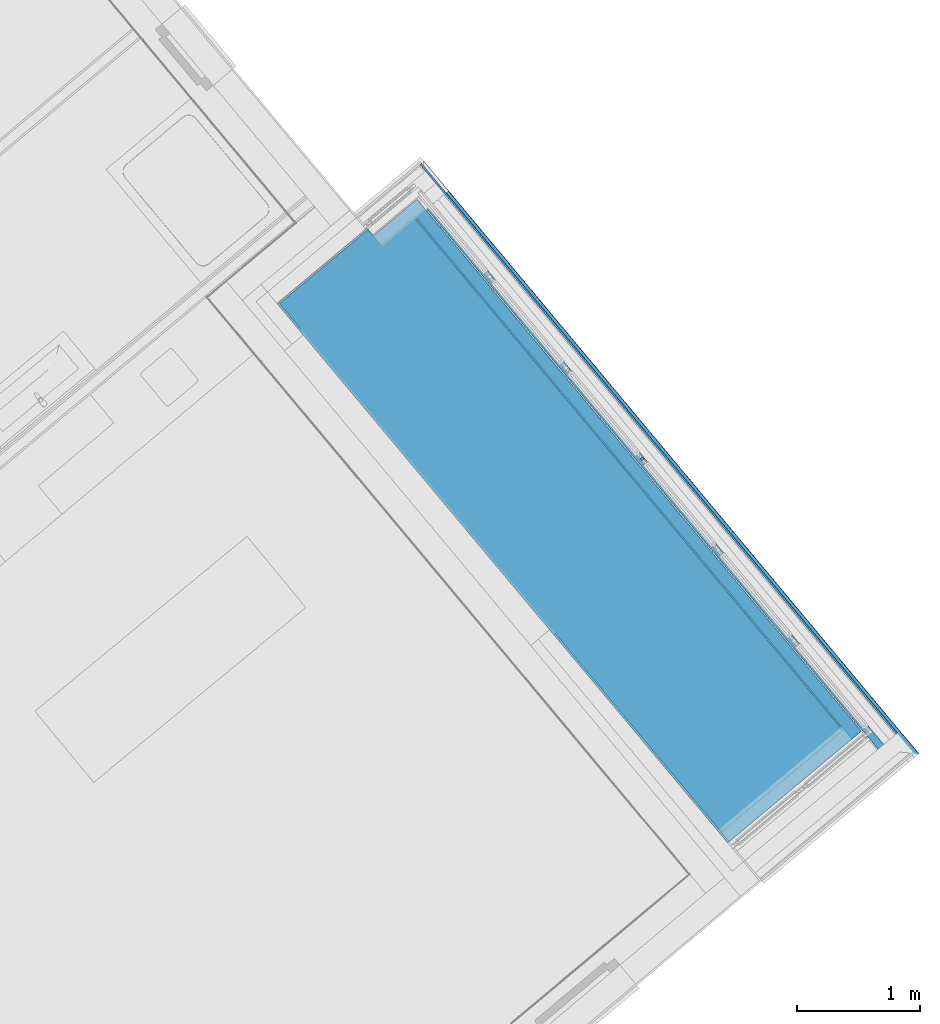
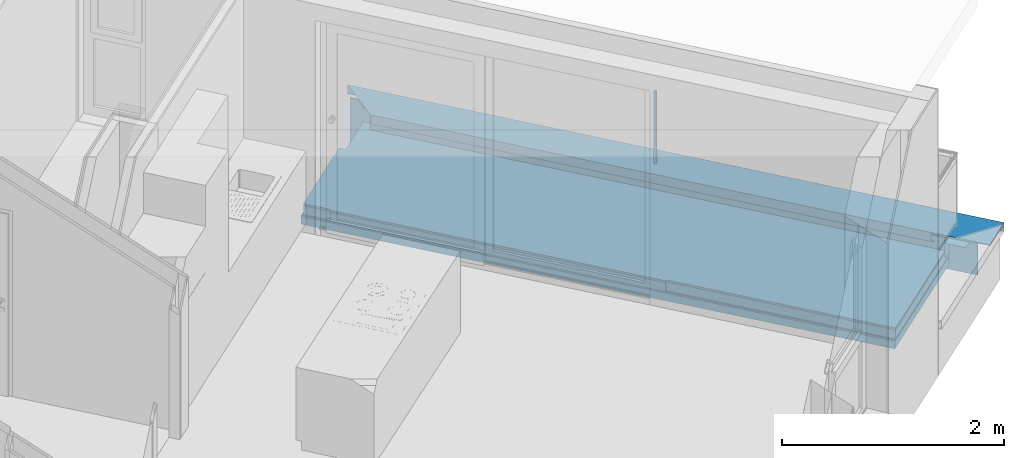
# One storey, part 35 of 50: 10 building element parts, 3 elements without a shape of their own.
"""IFC4 building model written with IfcOpenShell, lengths in metres."""

from ifc_helpers import new_model, entity, si_unit, converted_unit, derived_unit, direction, frame, origin_with_axes, place, context, subcontext, project, spatial, polygons, material, type_object, element, aggregate, save


model = new_model("IFC4")

# Units and contexts
model_context = context("Model", 3, precision=1e-05, world=origin_with_axes(), true_north=direction((0.0, 1.0)))
body_context = subcontext(model_context, "Body", "Model", "MODEL_VIEW")
ifc_project = project(units=[si_unit("LENGTHUNIT", "METRE"), si_unit("AREAUNIT", "SQUARE_METRE"), si_unit("VOLUMEUNIT", "CUBIC_METRE"), converted_unit("PLANEANGLEUNIT", "DEGREE", entity("IfcPlaneAngleMeasure", 0.0174532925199), si_unit("PLANEANGLEUNIT", "RADIAN"), dimensions=[0, 0, 0, 0, 0, 0, 0]), converted_unit("TIMEUNIT", "Year", entity("IfcTimeMeasure", 31556926.0), si_unit("TIMEUNIT", "SECOND"), dimensions=[0, 0, 1, 0, 0, 0, 0]), si_unit("MASSUNIT", "GRAM", prefix="KILO"), si_unit("THERMODYNAMICTEMPERATUREUNIT", "DEGREE_CELSIUS"), si_unit("LUMINOUSINTENSITYUNIT", "LUMEN"), si_unit("ENERGYUNIT", "JOULE", prefix="MEGA"), derived_unit("THERMALCONDUCTANCEUNIT", [(si_unit("POWERUNIT", "WATT"), 1), (si_unit("LENGTHUNIT", "METRE"), -1), (si_unit("THERMODYNAMICTEMPERATUREUNIT", "KELVIN"), -1)]), derived_unit("SPECIFICHEATCAPACITYUNIT", [(si_unit("ENERGYUNIT", "JOULE"), 1), (si_unit("MASSUNIT", "GRAM", prefix="KILO"), -1), (si_unit("THERMODYNAMICTEMPERATUREUNIT", "KELVIN"), -1)]), derived_unit("MASSDENSITYUNIT", [(si_unit("MASSUNIT", "GRAM", prefix="KILO"), 1), (si_unit("VOLUMEUNIT", "CUBIC_METRE"), -1)])], contexts=[model_context])

# Site, building, storey
site_placement = place(None, frame((-0.00153261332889, -0.00661245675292, 0.0), z_axis=(0.0, 0.0, 1.0), x_axis=(1.0, 0.0, 0.0)))
site = spatial("IfcSite", under=ifc_project, at=site_placement, Name="Site", CompositionType="ELEMENT")
building_placement = place(site_placement, origin_with_axes())
building = spatial("IfcBuilding", under=site, at=building_placement, Name="Building", CompositionType="ELEMENT")
storey_placement = place(building_placement, frame((0.0, 0.0, 2.74), z_axis=(0.0, 0.0, 1.0), x_axis=(1.0, 0.0, 0.0)))
storey = spatial("IfcBuildingStorey", under=building, at=storey_placement, Name="OG1", CompositionType="ELEMENT", Elevation=2.74)

# Wall, building element parts
wall_type = type_object("IfcWallType", Name="Bauteil - Attika Balkon 356 x 610", PredefinedType="NOTDEFINED")
wall_placement = place(storey_placement, frame((10.5963720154, 25.814959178, -0.2), z_axis=(0.0, 0.0, 1.0), x_axis=(0.641206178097, -0.767368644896, 0.0)))
wall = element("IfcWall", 1, at=wall_placement, inside=storey, type_object=wall_type, Name="Wand-003", PredefinedType="NOTDEFINED")
ifc_material_1 = material(Name="Zementputz")
building_element_part_1_placement = place(wall_placement, origin_with_axes())
building_element_part_1 = element("IfcBuildingElementPart", 2, at=building_element_part_1_placement, material=ifc_material_1, Name="Zementputz", PredefinedType="NOTDEFINED", context=body_context, shape_type="Tessellation", body=[
    polygons([(5.82966796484, 0.199999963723, 0.500000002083), (5.82966789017, 0.214999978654, 0.500000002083), (-0.200001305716, 0.214999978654, 0.500000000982), (-0.200001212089, 0.199999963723, 0.500000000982), (5.82966789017, 0.214999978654, 0.498915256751), (5.82966796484, 0.199999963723, 0.498915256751), (5.82966789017, 0.214999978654, 0.498822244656), (5.82966789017, 0.214999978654, 0.496604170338), (5.82966789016, 0.214999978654, 0.491006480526), (5.82966789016, 0.214999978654, 0.488695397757), (5.82966789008, 0.214999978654, 0.335), (5.82966789, 0.214999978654, 0.200000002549), (5.82966789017, 0.214999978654, 0.0), (-0.200001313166, 0.214999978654, 0.0), (-0.200001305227, 0.214999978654, 0.2), (-0.200001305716, 0.214999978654, 0.334999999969), (-0.200001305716, 0.214999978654, 0.496604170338), (-0.200001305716, 0.214999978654, 0.498915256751), (-0.200001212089, 0.199999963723, 0.498915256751), (-0.200001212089, 0.199999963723, 0.496604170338), (-0.200001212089, 0.199999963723, 0.334999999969), (-0.2000012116, 0.199999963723, 0.2), (5.82966796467, 0.199999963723, 0.200000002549), (5.82966796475, 0.199999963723, 0.335), (5.82966796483, 0.199999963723, 0.488695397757), (5.82966796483, 0.199999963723, 0.491006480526), (5.82966796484, 0.199999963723, 0.496604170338), (5.82966796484, 0.199999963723, 0.498822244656), (5.82966796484, 0.199999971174, 0.0), (-0.200001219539, 0.199999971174, 0.0)], [[[1, 2, 3, 4]], [[5, 2, 1, 6]], [[2, 5, 7, 8, 9, 10, 11, 12, 13, 14, 15, 16, 17, 18, 3]], [[4, 3, 18, 19]], [[6, 1, 4, 19, 20, 21, 22, 23, 24, 25, 26, 27, 28]], [[5, 6, 28, 7]], [[7, 28, 27, 8]], [[8, 27, 26, 9]], [[9, 26, 25, 10]], [[10, 25, 24, 11]], [[11, 24, 23, 12]], [[12, 23, 29, 13]], [[13, 29, 30, 14]], [[22, 15, 14, 30]], [[21, 16, 15, 22]], [[20, 17, 16, 21]], [[19, 18, 17, 20]], [[29, 23, 22, 30]]], closed=True),
])
ifc_material_2 = material(Name="Vollholz")
building_element_part_2_placement = place(wall_placement, origin_with_axes())
building_element_part_2 = element("IfcBuildingElementPart", 3, at=building_element_part_2_placement, material=ifc_material_2, Name="Vollholz", PredefinedType="NOTDEFINED", context=body_context, shape_type="Tessellation", body=[
    polygons([(6.01968753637, 0.0100326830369, 0.57982217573), (6.0196759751, 0.0701429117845, 0.581921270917), (-0.0701433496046, 0.0701429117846, 0.581921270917), (-0.0100327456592, 0.010032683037, 0.579822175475), (6.01968723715, 0.0701429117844, 0.57982217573), (6.01970785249, 0.0701429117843, 0.575979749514), (5.95979359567, 0.0701429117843, 0.575979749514), (5.72966861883, 0.0701429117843, 0.575979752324), (5.7296686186, 0.0701429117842, 0.575576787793), (5.72966861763, 0.0701429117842, 0.573880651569), (5.72966861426, 0.0701429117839, 0.567947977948), (5.72966860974, 0.0701429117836, 0.560000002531), (-0.0101433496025, 0.0701429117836, 0.560000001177), (-0.010056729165, 0.0701429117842, 0.575576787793), (-0.0100331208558, 0.0701429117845, 0.579822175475), (6.01970815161, 0.0100540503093, 0.575979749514), (-0.0100563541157, 0.0100562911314, 0.575576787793), (-0.0101429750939, 0.0101429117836, 0.560000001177), (5.72966890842, 0.0101429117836, 0.560000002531), (5.72966891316, 0.0100987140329, 0.567947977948), (5.7296689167, 0.0100657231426, 0.573880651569), (5.72966891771, 0.0100562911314, 0.575576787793), (5.72966891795, 0.0100540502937, 0.575979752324), (5.95979389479, 0.0100540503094, 0.575979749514)], [[[1, 2, 3, 4]], [[5, 2, 1]], [[2, 5, 6, 7, 8, 9, 10, 11, 12, 13, 14, 15, 3]], [[3, 15, 4]], [[16, 1, 4, 17, 18, 19, 20, 21, 22, 23, 24]], [[5, 1, 16, 6]], [[6, 16, 24, 7]], [[8, 7, 24, 23]], [[9, 8, 23, 22]], [[9, 22, 21, 10]], [[10, 21, 20, 11]], [[11, 20, 19, 12]], [[12, 19, 18, 13]], [[17, 14, 13, 18]], [[4, 15, 14, 17]]], closed=True),
])
ifc_material_3 = material(Name="EPS 1")
building_element_part_3_placement = place(wall_placement, origin_with_axes())
building_element_part_3 = element("IfcBuildingElementPart", 4, at=building_element_part_3_placement, material=ifc_material_3, Name="EPS 1", PredefinedType="NOTDEFINED", context=body_context, shape_type="Tessellation", body=[
    polygons([(5.62966945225, -0.0999999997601, 0.560000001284), (5.62966895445, 2.39904096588e-10, 0.560000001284), (0.099999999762, 2.39911202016e-10, 0.560000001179), (0.100000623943, -0.0999999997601, 0.560000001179), (5.62966896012, 2.39904096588e-10, 0.519273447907), (5.62966945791, -0.0999999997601, 0.519273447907), (5.62966896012, 2.39904096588e-10, 0.519224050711), (5.62966896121, 2.39907649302e-10, 0.511410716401), (5.62966896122, 2.39904096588e-10, 0.51136132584), (5.62966896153, 2.39907649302e-10, 0.509099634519), (5.62966896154, 2.39907649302e-10, 0.509050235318), (5.62966896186, 2.39904096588e-10, 0.506731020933), (5.6296689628, 2.39932518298e-10, 0.500000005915), (5.62966895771, 2.39904096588e-10, 0.498915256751), (5.82966896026, 2.39904096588e-10, 0.498915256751), (5.62966895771, 2.39904096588e-10, 0.498822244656), (5.62966895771, 2.39904096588e-10, 0.496604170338), (5.62966895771, 2.39904096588e-10, 0.491006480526), (5.62966895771, 2.39904096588e-10, 0.488695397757), (5.62966895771, 2.39904096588e-10, 0.334999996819), (0.099999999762, 2.39911202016e-10, 0.334999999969), (0.099999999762, 2.39911202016e-10, 0.496604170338), (0.099999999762, 2.39911202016e-10, 0.498915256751), (0.099999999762, 2.39911202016e-10, 0.499999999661), (0.099999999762, 2.39911202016e-10, 0.506731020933), (0.099999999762, 2.39911202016e-10, 0.509099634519), (0.099999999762, 2.39911202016e-10, 0.511410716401), (0.099999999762, 2.39911202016e-10, 0.519273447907), (0.100000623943, -0.0999999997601, 0.519273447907), (0.100000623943, -0.0999999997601, 0.511410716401), (0.100000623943, -0.0999999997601, 0.509099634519), (0.100000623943, -0.0999999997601, 0.506731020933), (0.100000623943, -0.0999999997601, 0.499999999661), (0.100000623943, -0.0999999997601, 0.498915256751), (0.100000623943, -0.0999999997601, 0.496604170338), (0.100000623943, -0.0999999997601, 0.334999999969), (5.62966945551, -0.0999999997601, 0.334999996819), (5.62966945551, -0.0999999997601, 0.488695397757), (5.62966945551, -0.0999999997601, 0.491006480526), (5.62966945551, -0.0999999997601, 0.496604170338), (5.62966945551, -0.0999999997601, 0.498915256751), (5.6296694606, -0.0999999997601, 0.500000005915), (5.62966945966, -0.0999999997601, 0.506731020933), (5.62966945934, -0.0999999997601, 0.509050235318), (5.62966945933, -0.0999999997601, 0.509099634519), (5.62966945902, -0.0999999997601, 0.51136132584), (5.62966945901, -0.0999999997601, 0.511410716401), (5.62966945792, -0.0999999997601, 0.519224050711), (5.82966945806, -0.0999999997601, 0.498915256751)], [[[1, 2, 3, 4]], [[5, 2, 1, 6]], [[2, 5, 7, 8, 9, 10, 11, 12, 13, 14, 15, 16, 17, 18, 19, 20, 21, 22, 23, 24, 25, 26, 27, 28, 3]], [[3, 28, 29, 4]], [[6, 1, 4, 29, 30, 31, 32, 33, 34, 35, 36, 37, 38, 39, 40, 41, 42, 43, 44, 45, 46, 47, 48]], [[5, 6, 48, 7]], [[48, 47, 8, 7]], [[46, 9, 8, 47]], [[10, 9, 46, 45]], [[44, 11, 10, 45]], [[12, 11, 44, 43]], [[12, 43, 42, 13]], [[42, 41, 14, 13]], [[14, 41, 49, 15]], [[15, 49, 16]], [[16, 41, 40, 17]], [[40, 39, 18, 17]], [[19, 18, 39, 38]], [[19, 38, 37, 20]], [[37, 36, 21, 20]], [[21, 36, 35, 22]], [[35, 34, 23, 22]], [[33, 24, 23, 34]], [[33, 32, 25, 24]], [[32, 31, 26, 25]], [[27, 26, 31, 30]], [[28, 27, 30, 29]], [[49, 41, 16]]], closed=True),
])
ifc_material_4 = material(Name="Holzwerkstoff")
building_element_part_4_placement = place(wall_placement, origin_with_axes())
building_element_part_4 = element("IfcBuildingElementPart", 5, at=building_element_part_4_placement, material=ifc_material_4, Name="Holzwerkstoff", PredefinedType="NOTDEFINED", context=body_context, shape_type="Tessellation", body=[
    polygons([(0.111540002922, -0.111539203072, 0.575576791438), (0.11168825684, -0.111687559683, 0.579822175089), (0.111687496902, 0.0100327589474, 0.579822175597), (0.111761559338, -0.111760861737, 0.581921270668), (5.71813019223, -0.111539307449, 0.575576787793), (5.72966952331, -0.111553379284, 0.575979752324), (5.83970216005, -0.111687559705, 0.57982217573), (5.89981240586, -0.111760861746, 0.581921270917), (5.95979449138, -0.111834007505, 0.584015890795), (6.0196544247, -0.111907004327, 0.586106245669), (6.06966950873, -0.111967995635, 0.587852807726), (6.06966655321, -0.111970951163, 0.587937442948), (6.06939037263, -0.112247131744, 0.595846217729), (0.11224783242, -0.112247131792, 0.5958462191), (0.111907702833, -0.111907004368, 0.586106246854), (0.111834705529, -0.11183400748, 0.584015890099), (0.111760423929, 0.0701429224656, 0.581921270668), (5.83970155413, 0.0100327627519, 0.57982217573), (5.7296694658, -0.0999999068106, 0.575979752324), (5.89981148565, 0.0701429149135, 0.581921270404), (5.95979328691, 0.130124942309, 0.584015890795), (6.01965290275, 0.189984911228, 0.586106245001), (6.06966775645, 0.23999998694, 0.587852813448), (6.06966480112, 0.239997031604, 0.587937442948), (6.06938862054, 0.239720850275, 0.595846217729), (-0.239277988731, 0.239276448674, 0.608570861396), (6.068944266, 0.23927649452, 0.608570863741), (0.112245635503, 0.239720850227, 0.5958462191), (0.11196649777, 0.23999998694, 0.587852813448), (0.11190581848, 0.189984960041, 0.586106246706), (0.111833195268, 0.130124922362, 0.584015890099)], [[[1, 2, 3]], [[4, 2, 1, 5, 6, 7, 8, 9, 10, 11, 12, 13, 14, 15, 16]], [[2, 4, 17, 3]], [[1, 3, 18, 19, 5]], [[6, 5, 19]], [[7, 6, 19, 18]], [[8, 7, 18, 20]], [[9, 8, 20, 21]], [[10, 9, 21, 22]], [[11, 10, 22, 23]], [[11, 23, 24, 12]], [[13, 12, 24, 25]], [[26, 14, 13, 27]], [[15, 14, 28, 29, 30]], [[16, 15, 30, 31]], [[4, 16, 31, 17]], [[3, 17, 20, 18]], [[17, 31, 21, 20]], [[31, 30, 22, 21]], [[30, 29, 23, 22]], [[29, 28, 26, 27, 25, 24, 23]], [[13, 25, 27]], [[28, 14, 26]]], closed=True),
])
ifc_material_5 = material(Name="Stahl")
building_element_part_5_placement = place(wall_placement, origin_with_axes())
building_element_part_5 = element("IfcBuildingElementPart", 6, at=building_element_part_5_placement, material=ifc_material_5, Name="Stahl", PredefinedType="NOTDEFINED", context=body_context, shape_type="Tessellation", body=[
    polygons([(0.113601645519, -0.113600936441, 0.498915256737), (0.113601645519, -0.11360093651, 0.499999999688), (0.113601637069, -0.112247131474, 0.499999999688), (0.113601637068, -0.112247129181, 0.498915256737), (0.113601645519, -0.113600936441, 0.497561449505), (5.49897144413, -0.113600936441, 0.497561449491), (5.49897144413, -0.113600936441, 0.498822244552), (5.49897144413, -0.113600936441, 0.498915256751), (5.49897144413, -0.11360093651, 0.499999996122), (5.49897144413, -0.113600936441, 0.506731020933), (5.49897144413, -0.113600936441, 0.509050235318), (5.49897144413, -0.113600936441, 0.509099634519), (5.49897144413, -0.11360093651, 0.51136132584), (5.49897144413, -0.11360093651, 0.511410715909), (5.49897144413, -0.1136009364, 0.519224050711), (5.49897144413, -0.1136009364, 0.519273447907), (5.49897144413, -0.11360093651, 0.560000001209), (5.49897144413, -0.11360093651, 0.567947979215), (5.49897144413, -0.11360093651, 0.57388065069), (5.49897144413, -0.11360093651, 0.575576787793), (5.49897144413, -0.11360093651, 0.575979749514), (5.49897144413, -0.11360093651, 0.57982217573), (5.49897144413, -0.11360093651, 0.581921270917), (5.49897144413, -0.11360093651, 0.584015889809), (5.49897144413, -0.11360093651, 0.586106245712), (5.49897143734, -0.11360093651, 0.587937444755), (5.71744231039, -0.11360093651, 0.595846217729), (5.75350982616, -0.11360093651, 0.597151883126), (0.113601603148, -0.11360093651, 0.597151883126), (0.113601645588, -0.11360093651, 0.595846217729), (0.113601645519, -0.11360093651, 0.586106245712), (0.113601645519, -0.11360093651, 0.584015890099), (0.113601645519, -0.11360093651, 0.581921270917), (0.113601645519, -0.11360093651, 0.57982217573), (0.113601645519, -0.11360093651, 0.575576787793), (0.113601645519, -0.11360093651, 0.559999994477), (0.113601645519, -0.1136009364, 0.519273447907), (0.113601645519, -0.11360093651, 0.511410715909), (0.113601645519, -0.113600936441, 0.509099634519), (0.113601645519, -0.113600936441, 0.506731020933), (0.113601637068, -0.112247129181, 0.506731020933), (0.113601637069, -0.112247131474, 0.559999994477), (0.113601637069, -0.112247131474, 0.575576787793), (0.113601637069, -0.112247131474, 0.57982217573), (0.113601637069, -0.112247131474, 0.581921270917), (0.113601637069, -0.112247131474, 0.584015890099), (0.113601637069, -0.112247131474, 0.586106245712), (0.113601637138, -0.112247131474, 0.595846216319), (5.71744226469, -0.112247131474, 0.595846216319), (5.4989714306, -0.112247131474, 0.587937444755), (5.49897143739, -0.112247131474, 0.586106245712), (5.49897143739, -0.112247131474, 0.584015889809), (5.49897143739, -0.112247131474, 0.581921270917), (5.49897143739, -0.112247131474, 0.57982217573), (5.49897143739, -0.112247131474, 0.575979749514), (5.49897143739, -0.112247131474, 0.575576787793), (5.49897143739, -0.112247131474, 0.57388065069), (5.49897143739, -0.112247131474, 0.567947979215), (5.49897143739, -0.112247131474, 0.560000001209), (5.49897143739, -0.112247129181, 0.519273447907), (5.49897143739, -0.112247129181, 0.519224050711), (5.49897143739, -0.112247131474, 0.511410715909), (5.49897143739, -0.112247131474, 0.51136132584), (5.49897143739, -0.112247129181, 0.509099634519), (5.49897143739, -0.112247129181, 0.509050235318), (5.49897143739, -0.112247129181, 0.506731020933), (5.49897143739, -0.112247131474, 0.499999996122), (5.49897143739, -0.112247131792, 0.498915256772), (0.113601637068, -0.112247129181, 0.509099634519), (0.113601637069, -0.112247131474, 0.511410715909), (0.113601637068, -0.112247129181, 0.519273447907), (0.113601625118, -0.110332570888, 0.498915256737), (0.113601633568, -0.11168637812, 0.497561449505), (0.112644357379, -0.112643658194, 0.496604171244), (5.49897143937, -0.112643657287, 0.496604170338), (5.49897142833, -0.110425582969, 0.498822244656), (5.49897142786, -0.110332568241, 0.498915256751), (6.0689442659, 0.23927660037, 0.608570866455), (6.06894445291, 0.201708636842, 0.608570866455), (-0.2017098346, 0.20170855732, 0.608570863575), (6.06982075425, 0.202589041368, 0.608602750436), (6.07116820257, 0.202589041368, 0.608602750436), (6.07116801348, 0.241343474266, 0.610006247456), (5.82966895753, 0.241343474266, 0.610006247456), (5.82966895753, 0.242707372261, 0.610055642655), (-0.242708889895, 0.242707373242, 0.610055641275), (-0.2039541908, 0.203952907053, 0.608652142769), (0.113601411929, -0.0761775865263, 0.597151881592), (-0.201710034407, 0.239276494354, 0.608570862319), (0.112247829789, -0.112247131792, 0.498915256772), (5.49897143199, -0.111162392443, 0.499999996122), (5.52966951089, -0.111162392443, 0.499999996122), (5.52966947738, -0.104431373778, 0.506731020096), (0.104432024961, -0.104431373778, 0.506731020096), (0.111163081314, -0.111162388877, 0.499999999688), (0.112247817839, -0.110332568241, 0.498915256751), (0.111163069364, -0.109247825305, 0.499999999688), (0.105342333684, -0.103427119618, 0.505820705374), (5.52966947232, -0.103427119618, 0.505820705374), (5.52966950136, -0.10924782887, 0.499999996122), (5.49897142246, -0.10924782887, 0.499999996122), (6.06982056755, 0.240093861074, 0.608602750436), (6.07116801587, 0.240093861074, 0.608602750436), (6.07116801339, 0.24135992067, 0.60865214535), (6.07116801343, 0.241353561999, 0.511410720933), (6.07116800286, 0.242707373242, 0.511410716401), (6.07116800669, 0.242707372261, 0.610006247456), (5.82966895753, 0.242707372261, 0.610006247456), (-0.240794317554, 0.242707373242, 0.510056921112), (-0.239440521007, 0.242707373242, 0.511410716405), (-0.241355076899, 0.242707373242, 0.511410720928), (-0.241355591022, 0.242707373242, 0.519273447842), (-0.241358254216, 0.242707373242, 0.559999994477), (-0.241359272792, 0.242707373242, 0.575576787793), (-0.2413595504, 0.242707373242, 0.57982217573), (-0.241359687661, 0.242707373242, 0.581921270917), (-0.241359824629, 0.242707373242, 0.584015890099), (-0.241359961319, 0.242707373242, 0.586106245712), (-0.241360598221, 0.242707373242, 0.595846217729), (-0.241361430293, 0.242707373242, 0.608570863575), (-0.241361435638, 0.242707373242, 0.608652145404), (-0.203954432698, 0.242707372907, 0.608652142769), (6.06981419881, 0.242707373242, 0.511410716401), (6.06976481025, 0.242707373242, 0.511410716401), (6.06981419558, 0.242707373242, 0.51136132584), (6.07116800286, 0.242707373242, 0.51136132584), (6.07116800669, 0.242707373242, 0.510056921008), (-0.203954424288, 0.24135985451, 0.608652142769), (-0.241355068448, 0.241353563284, 0.511410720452), (-0.239440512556, 0.241353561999, 0.511410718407), (6.06976481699, 0.241353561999, 0.511410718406), (6.06981420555, 0.241353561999, 0.511410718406), (-0.241361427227, 0.241359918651, 0.608652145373), (-0.241361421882, 0.241359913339, 0.608570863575), (-0.241360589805, 0.241359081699, 0.595846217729), (-0.241359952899, 0.241358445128, 0.586106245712), (-0.241359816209, 0.241358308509, 0.584015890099), (-0.241359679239, 0.241358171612, 0.581921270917), (-0.241359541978, 0.241358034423, 0.57982217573), (-0.241359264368, 0.241357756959, 0.575576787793), (-0.241358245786, 0.241356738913, 0.559999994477), (-0.241355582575, 0.241354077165, 0.519273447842), (-0.239440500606, 0.239439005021, 0.511410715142), (-0.241751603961, 0.241750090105, 0.509099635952), (6.06976482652, 0.239439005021, 0.511410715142), (6.0698142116, 0.239488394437, 0.51136132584), (6.07116801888, 0.239488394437, 0.51136132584), (6.07116801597, 0.240842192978, 0.510007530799), (6.07116800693, 0.242657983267, 0.510007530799), (6.07026012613, 0.241750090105, 0.509099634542), (-0.232581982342, 0.234495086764, 0.518269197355), (-0.233492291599, 0.233490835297, 0.519273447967), (6.06981475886, 0.233490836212, 0.519273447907), (6.06981475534, 0.233540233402, 0.519224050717), (6.06195152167, 0.233540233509, 0.51922405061), (-0.232581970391, 0.232580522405, 0.518269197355), (6.06290637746, 0.232580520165, 0.518269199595), (6.06195152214, 0.233446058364, 0.51922405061), (6.06981475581, 0.233446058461, 0.519224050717)], [[[1, 2, 3, 4]], [[1, 5, 6, 7, 8, 9, 10, 11, 12, 13, 14, 15, 16, 17, 18, 19, 20, 21, 22, 23, 24, 25, 26, 27, 28, 29, 30, 31, 32, 33, 34, 35, 36, 37, 38, 39, 40, 2]], [[2, 40, 41, 3]], [[42, 43, 44, 45, 46, 47, 48, 49, 50, 51, 52, 53, 54, 55, 56, 57, 58, 59, 60, 61, 62, 63, 64, 65, 66, 67, 68, 4, 3, 41, 69, 70, 71]], [[5, 1, 4, 72, 73]], [[5, 74, 75, 6]], [[7, 6, 75, 76]], [[8, 7, 76, 77, 68]], [[9, 8, 68, 67]], [[10, 9, 67, 66]], [[11, 10, 66, 65]], [[12, 11, 65, 64]], [[13, 12, 64, 63]], [[14, 13, 63, 62]], [[15, 14, 62, 61]], [[15, 61, 60, 16]], [[59, 17, 16, 60]], [[18, 17, 59, 58]], [[19, 18, 58, 57]], [[20, 19, 57, 56]], [[21, 20, 56, 55]], [[22, 21, 55, 54]], [[23, 22, 54, 53]], [[24, 23, 53, 52]], [[25, 24, 52, 51]], [[25, 51, 50, 26]], [[49, 27, 26, 50]], [[27, 49, 78, 79, 28]], [[80, 29, 28, 79, 81, 82, 83, 84, 85, 86, 87]], [[30, 29, 88, 48]], [[47, 31, 30, 48]], [[32, 31, 47, 46]], [[33, 32, 46, 45]], [[34, 33, 45, 44]], [[35, 34, 44, 43]], [[36, 35, 43, 42]], [[36, 42, 71, 37]], [[70, 38, 37, 71]], [[39, 38, 70, 69]], [[40, 39, 69, 41]], [[48, 88, 89, 78, 49]], [[90, 4, 68, 91, 92, 93, 94, 95]], [[4, 90, 96, 72]], [[74, 73, 72, 96, 97, 98, 99, 100, 101, 77, 76, 75]], [[74, 5, 73]], [[68, 77, 101, 91]], [[81, 79, 78, 102]], [[29, 80, 89, 88]], [[82, 81, 102, 103]], [[104, 105, 106, 107, 83, 82, 103]], [[84, 83, 107, 108]], [[84, 108, 85]], [[109, 110, 111, 112, 113, 114, 115, 116, 117, 118, 119, 120, 121, 122, 86, 85, 108, 107, 106, 123, 124, 125, 126, 127]], [[87, 86, 122, 128]], [[80, 87, 128, 89]], [[89, 128, 104, 103, 102, 78]], [[100, 92, 91, 101]], [[92, 100, 99, 93]], [[98, 94, 93, 99]], [[97, 95, 94, 98]], [[90, 95, 97, 96]], [[129, 130, 131, 132, 105, 104, 128, 133, 134, 135, 136, 137, 138, 139, 140, 141, 142]], [[106, 105, 132, 123]], [[143, 130, 110, 109, 144]], [[130, 129, 111, 110]], [[129, 142, 112, 111]], [[142, 141, 113, 112]], [[141, 140, 114, 113]], [[140, 139, 115, 114]], [[139, 138, 116, 115]], [[138, 137, 117, 116]], [[137, 136, 118, 117]], [[136, 135, 119, 118]], [[135, 134, 120, 119]], [[134, 133, 121, 120]], [[121, 133, 128, 122]], [[131, 124, 123, 132]], [[145, 146, 125, 124, 131]], [[146, 147, 126, 125]], [[147, 148, 149, 127, 126]], [[144, 109, 127, 149, 150]], [[130, 151, 152, 153, 154, 155, 131]], [[143, 156, 151, 130]], [[156, 143, 144, 150, 148, 147, 146, 145, 157]], [[157, 145, 131, 155, 158]], [[148, 150, 149]], [[156, 152, 151]], [[152, 156, 157, 158, 159, 153]], [[159, 154, 153]], [[154, 159, 158, 155]]], closed=True),
])
aggregate(wall, [building_element_part_1, building_element_part_2, building_element_part_3, building_element_part_4, building_element_part_5])

# Covering, building element parts
covering_type = type_object("IfcCoveringType", Name="Balkon 220", PredefinedType="NOTDEFINED")
covering_placement = place(storey_placement, frame((9.45914172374, 24.9689434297, 0.0), z_axis=(0.0, 0.0, 1.0), x_axis=(1.0, 0.0, 0.0)))
covering = element("IfcCovering", 7, at=covering_placement, inside=storey, type_object=covering_type, Name="Decke-005", PredefinedType="NOTDEFINED")
ifc_material_6 = material(Name="Platten")
building_element_part_6_placement = place(covering_placement, origin_with_axes())
building_element_part_6 = element("IfcBuildingElementPart", 8, at=building_element_part_6_placement, material=ifc_material_6, Name="Platten", PredefinedType="NOTDEFINED", context=body_context, shape_type="Tessellation", body=[
    polygons([(0.741082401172, 0.599700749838, 0.2), (0.741082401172, 0.599700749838, 0.22), (0.782761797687, 0.549821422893, 0.22), (0.782761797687, 0.549821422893, 0.2), (0.0211286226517, -0.00189233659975, 0.22), (0.0211286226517, -0.00189233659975, 0.2), (0.193524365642, -0.208206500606, 0.22), (0.182013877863, -0.217824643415, 0.22), (2.24670853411, -2.68874268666, 0.22), (2.25821902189, -2.67912454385, 0.22), (3.67260468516, -4.37178696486, 0.22), (4.74700876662, -3.47401574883, 0.22), (1.13722952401, 0.846014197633, 0.22), (1.13722952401, 0.846014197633, 0.2), (4.74700876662, -3.47401574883, 0.2), (3.67260468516, -4.37178696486, 0.2), (2.25821902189, -2.67912454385, 0.2), (2.24670853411, -2.68874268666, 0.2), (0.182013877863, -0.217824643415, 0.2), (0.193524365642, -0.208206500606, 0.2)], [[[1, 2, 3, 4]], [[5, 2, 1, 6]], [[2, 5, 7, 8, 9, 10, 11, 12, 13, 3]], [[14, 4, 3, 13]], [[6, 1, 4, 14, 15, 16, 17, 18, 19, 20]], [[5, 6, 20, 7]], [[8, 7, 20, 19]], [[18, 9, 8, 19]], [[10, 9, 18, 17]], [[16, 11, 10, 17]], [[11, 16, 15, 12]], [[15, 14, 13, 12]]], closed=True),
])
ifc_material_7 = material(Name="Luftschicht horizontal")
building_element_part_7_placement = place(covering_placement, origin_with_axes())
building_element_part_7 = element("IfcBuildingElementPart", 9, at=building_element_part_7_placement, material=ifc_material_7, Name="Luftschicht horizontal", PredefinedType="NOTDEFINED", context=body_context, shape_type="Tessellation", body=[
    polygons([(0.741082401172, 0.599700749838, 0.1), (0.741082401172, 0.599700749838, 0.2), (0.782761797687, 0.549821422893, 0.2), (0.782761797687, 0.549821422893, 0.1), (0.0211286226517, -0.00189233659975, 0.2), (0.0211286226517, -0.00189233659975, 0.1), (0.193524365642, -0.208206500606, 0.2), (0.182013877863, -0.217824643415, 0.2), (2.24670853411, -2.68874268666, 0.2), (2.25821902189, -2.67912454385, 0.2), (3.67260468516, -4.37178696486, 0.2), (4.74700876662, -3.47401574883, 0.2), (1.13722952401, 0.846014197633, 0.2), (1.13722952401, 0.846014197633, 0.1), (4.74700876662, -3.47401574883, 0.1), (3.67260468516, -4.37178696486, 0.1), (2.25821902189, -2.67912454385, 0.1), (2.24670853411, -2.68874268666, 0.1), (0.182013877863, -0.217824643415, 0.1), (0.193524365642, -0.208206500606, 0.1)], [[[1, 2, 3, 4]], [[5, 2, 1, 6]], [[2, 5, 7, 8, 9, 10, 11, 12, 13, 3]], [[14, 4, 3, 13]], [[6, 1, 4, 14, 15, 16, 17, 18, 19, 20]], [[5, 6, 20, 7]], [[8, 7, 20, 19]], [[18, 9, 8, 19]], [[10, 9, 18, 17]], [[16, 11, 10, 17]], [[11, 16, 15, 12]], [[15, 14, 13, 12]]], closed=True),
])
ifc_material_8 = material(Name="Sperrschicht")
building_element_part_8_placement = place(covering_placement, origin_with_axes())
building_element_part_8 = element("IfcBuildingElementPart", 10, at=building_element_part_8_placement, material=ifc_material_8, Name="Sperrschicht", PredefinedType="NOTDEFINED", context=body_context, shape_type="Tessellation", body=[
    polygons([(3.66109421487, -4.38140510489, 0.085), (3.66109421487, -4.38140510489, 0.1), (0.0, 0.0, 0.1), (0.0, 0.0, 0.085), (4.74700876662, -3.47401574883, 0.085), (4.74700876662, -3.47401574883, 0.1), (1.13722952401, 0.846014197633, 0.1), (0.782761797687, 0.549821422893, 0.1), (0.741082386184, 0.599700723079, 0.1), (0.731464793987, 0.611210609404, 0.1), (0.731464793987, 0.611210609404, 0.085), (0.741082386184, 0.599700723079, 0.085), (0.782761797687, 0.549821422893, 0.085), (1.13722952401, 0.846014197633, 0.085)], [[[1, 2, 3, 4]], [[5, 6, 2, 1]], [[3, 2, 6, 7, 8, 9, 10]], [[4, 3, 10, 11]], [[4, 11, 12, 13, 14, 5, 1]], [[14, 7, 6, 5]], [[13, 8, 7, 14]], [[12, 9, 8, 13]], [[11, 10, 9, 12]]], closed=True),
])
ifc_material_9 = material(Name="Stampfbeton")
building_element_part_9_placement = place(covering_placement, origin_with_axes())
building_element_part_9 = element("IfcBuildingElementPart", 11, at=building_element_part_9_placement, material=ifc_material_9, Name="Stampfbeton", PredefinedType="NOTDEFINED", context=body_context, shape_type="Tessellation", body=[
    polygons([(0.0, 0.0, 0.0), (3.66109421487, -4.38140510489, 0.0), (3.66109421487, -4.38140510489, 0.085), (0.0, 0.0, 0.085), (0.731464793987, 0.611210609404, 0.0), (0.741082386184, 0.599700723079, 0.0), (0.782761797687, 0.549821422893, 0.0), (1.13722952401, 0.846014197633, 0.0), (4.74700876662, -3.47401574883, 0.0), (4.74700876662, -3.47401574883, 0.085), (1.13722952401, 0.846014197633, 0.085), (0.782761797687, 0.549821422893, 0.085), (0.741082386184, 0.599700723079, 0.085), (0.731464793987, 0.611210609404, 0.085)], [[[1, 2, 3, 4]], [[1, 5, 6, 7, 8, 9, 2]], [[2, 9, 10, 3]], [[4, 3, 10, 11, 12, 13, 14]], [[5, 1, 4, 14]], [[6, 5, 14, 13]], [[7, 6, 13, 12]], [[8, 7, 12, 11]], [[9, 8, 11, 10]]], closed=True),
])
aggregate(covering, [building_element_part_6, building_element_part_7, building_element_part_8, building_element_part_9])

# Railing, building element part
railing_type = type_object("IfcRailingType", Name="Geländerart", PredefinedType="NOTDEFINED")
railing_placement = place(storey_placement, frame((13.1317464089, 20.5971564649, 0.38), z_axis=(0.0, 0.0, 1.0), x_axis=(1.0, 0.0, 0.0)))
railing = element("IfcRailing", 12, at=railing_placement, inside=storey, type_object=railing_type, Name="Geländer - 001", PredefinedType="NOTDEFINED")
ifc_material_10 = material(Name="Aluminium")
building_element_part_10_placement = place(railing_placement, origin_with_axes())
building_element_part_10 = element("IfcBuildingElementPart", 13, at=building_element_part_10_placement, material=ifc_material_10, Name="Aluminium", PredefinedType="NOTDEFINED", context=body_context, shape_type="Tessellation", body=[
    polygons([(-0.706570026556, 3.12663888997, -0.3), (-0.725754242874, 3.11060873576, -0.3), (-0.725754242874, 3.11060873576, 0.82), (-0.706570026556, 3.12663888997, 0.82), (-0.690539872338, 3.10745467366, -0.3), (-0.709724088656, 3.09142451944, -0.3), (-0.709724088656, 3.09142451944, 0.82), (-0.690539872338, 3.10745467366, 0.82)], [[[1, 2, 3, 4]], [[1, 5, 6, 2]], [[2, 6, 7, 3]], [[4, 3, 7, 8]], [[5, 1, 4, 8]], [[6, 5, 8, 7]]], closed=True),
])
aggregate(railing, [building_element_part_10])

save(model, "model.ifc")
